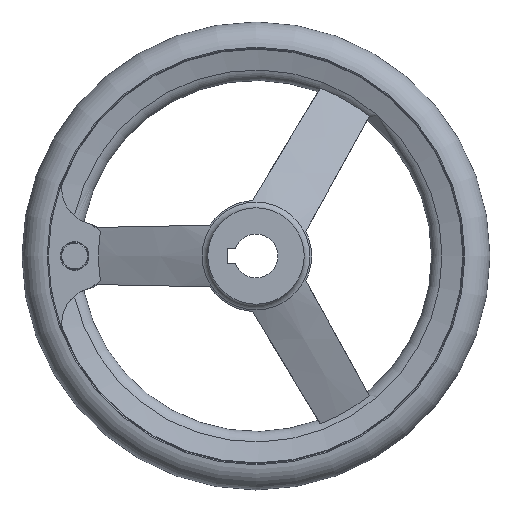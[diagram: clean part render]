
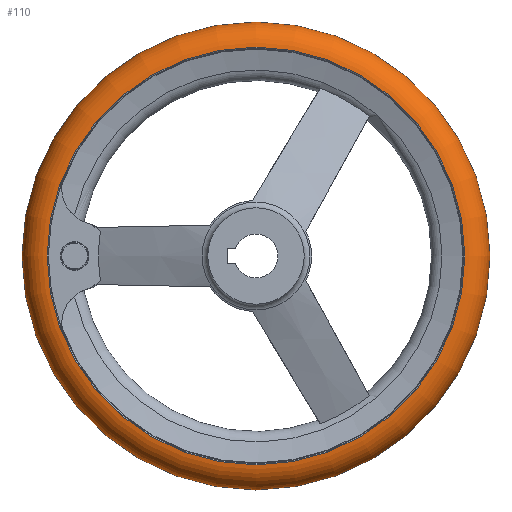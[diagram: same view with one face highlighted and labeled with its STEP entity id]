
A CAD part, left-side view. The second image highlights one B-rep face of the part: STEP entity #110.
In plain terms, the highlighted toroidal (fillet/blend) face has major radius 70.992 mm and minor radius 9.008 mm.
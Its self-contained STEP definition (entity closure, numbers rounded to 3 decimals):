
#110 = ADVANCED_FACE( '', ( #215, #216, #217 ), #218, .T. );
#215 = FACE_BOUND( '', #375, .T. );
#216 = FACE_OUTER_BOUND( '', #376, .T. );
#217 = FACE_OUTER_BOUND( '', #377, .T. );
#218 = TOROIDAL_SURFACE( '', #378, 70.992, 9.008 );
#375 = VERTEX_LOOP( '', #678 );
#376 = EDGE_LOOP( '', ( #679 ) );
#377 = EDGE_LOOP( '', ( #680 ) );
#378 = AXIS2_PLACEMENT_3D( '', #681, #682, #683 );
#678 = VERTEX_POINT( '', #874 );
#679 = ORIENTED_EDGE( '', *, *, #873, .T. );
#680 = ORIENTED_EDGE( '', *, *, #867, .F. );
#681 = CARTESIAN_POINT( '', ( 31., 0., 0. ) );
#682 = DIRECTION( '', ( 1., 0., 0. ) );
#683 = DIRECTION( '', ( 0., 1., 0. ) );
#867 = EDGE_CURVE( '', #1045, #1045, #1046, .T. );
#873 = EDGE_CURVE( '', #1056, #1056, #1057, .T. );
#874 = CARTESIAN_POINT( '', ( 31., 80., 0. ) );
#1045 = VERTEX_POINT( '', #1625 );
#1046 = CIRCLE( '', #1626, 71.375 );
#1056 = VERTEX_POINT( '', #1636 );
#1057 = CIRCLE( '', #1637, 71.375 );
#1625 = CARTESIAN_POINT( '', ( 40., 71.375, 0. ) );
#1626 = AXIS2_PLACEMENT_3D( '', #1786, #1787, #1788 );
#1636 = CARTESIAN_POINT( '', ( 22., 71.375, 0. ) );
#1637 = AXIS2_PLACEMENT_3D( '', #1804, #1805, #1806 );
#1786 = CARTESIAN_POINT( '', ( 40., 0., 0. ) );
#1787 = DIRECTION( '', ( 1., 0., 0. ) );
#1788 = DIRECTION( '', ( 0., 1., 0. ) );
#1804 = CARTESIAN_POINT( '', ( 22., 0., 0. ) );
#1805 = DIRECTION( '', ( 1., 0., 0. ) );
#1806 = DIRECTION( '', ( 0., 1., 0. ) );
